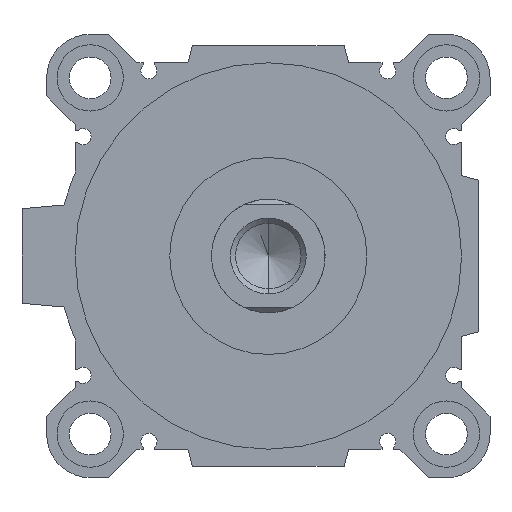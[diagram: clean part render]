
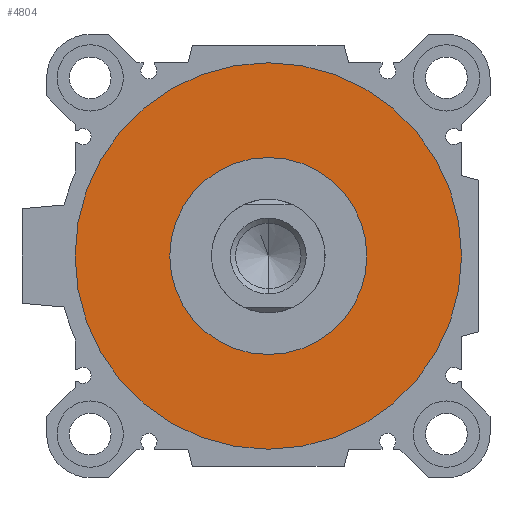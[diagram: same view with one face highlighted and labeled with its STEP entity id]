
A CAD part, left-side view. The second image highlights one B-rep face of the part: STEP entity #4804.
In plain terms, the highlighted planar face has unit normal (-1, 0, 0).
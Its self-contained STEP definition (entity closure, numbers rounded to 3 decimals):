
#263 = AXIS2_PLACEMENT_3D ( 'NONE', #4619, #3879, #3908 ) ;
#372 = DIRECTION ( 'NONE',  ( 0., 0., -1. ) ) ;
#512 = EDGE_LOOP ( 'NONE', ( #4328, #954 ) ) ;
#661 = CIRCLE ( 'NONE', #3333, 51. ) ;
#825 = CARTESIAN_POINT ( 'NONE',  ( 6.5, 0., 0. ) ) ;
#954 = ORIENTED_EDGE ( 'NONE', *, *, #2784, .F. ) ;
#1235 = PLANE ( 'NONE',  #1604 ) ;
#1427 = DIRECTION ( 'NONE',  ( 0., 0., -1. ) ) ;
#1449 = VERTEX_POINT ( 'NONE', #5079 ) ;
#1604 = AXIS2_PLACEMENT_3D ( 'NONE', #5025, #2904, #4606 ) ;
#1946 = CIRCLE ( 'NONE', #263, 26. ) ;
#2074 = EDGE_LOOP ( 'NONE', ( #4188, #3931 ) ) ;
#2089 = EDGE_CURVE ( 'NONE', #4534, #3792, #4820, .T. ) ;
#2559 = CIRCLE ( 'NONE', #2736, 51. ) ;
#2615 = CARTESIAN_POINT ( 'NONE',  ( 6.5, 0., 26. ) ) ;
#2736 = AXIS2_PLACEMENT_3D ( 'NONE', #825, #4689, #4138 ) ;
#2784 = EDGE_CURVE ( 'NONE', #5204, #1449, #661, .T. ) ;
#2873 = AXIS2_PLACEMENT_3D ( 'NONE', #4386, #3547, #1427 ) ;
#2904 = DIRECTION ( 'NONE',  ( 1., 0., 0. ) ) ;
#3024 = DIRECTION ( 'NONE',  ( 1., 0., 0. ) ) ;
#3324 = FACE_BOUND ( 'NONE', #2074, .T. ) ;
#3333 = AXIS2_PLACEMENT_3D ( 'NONE', #5141, #3024, #372 ) ;
#3479 = EDGE_CURVE ( 'NONE', #1449, #5204, #2559, .T. ) ;
#3547 = DIRECTION ( 'NONE',  ( 1., 0., 0. ) ) ;
#3792 = VERTEX_POINT ( 'NONE', #5263 ) ;
#3879 = DIRECTION ( 'NONE',  ( 1., 0., 0. ) ) ;
#3908 = DIRECTION ( 'NONE',  ( 0., 0., -1. ) ) ;
#3931 = ORIENTED_EDGE ( 'NONE', *, *, #4554, .T. ) ;
#4138 = DIRECTION ( 'NONE',  ( 0., 0., -1. ) ) ;
#4188 = ORIENTED_EDGE ( 'NONE', *, *, #2089, .T. ) ;
#4328 = ORIENTED_EDGE ( 'NONE', *, *, #3479, .F. ) ;
#4386 = CARTESIAN_POINT ( 'NONE',  ( 6.5, 0., 0. ) ) ;
#4534 = VERTEX_POINT ( 'NONE', #2615 ) ;
#4554 = EDGE_CURVE ( 'NONE', #3792, #4534, #1946, .T. ) ;
#4606 = DIRECTION ( 'NONE',  ( 0., 1., 0. ) ) ;
#4619 = CARTESIAN_POINT ( 'NONE',  ( 6.5, 0., 0. ) ) ;
#4689 = DIRECTION ( 'NONE',  ( 1., 0., 0. ) ) ;
#4804 = ADVANCED_FACE ( 'NONE', ( #5444, #3324 ), #1235, .F. ) ;
#4820 = CIRCLE ( 'NONE', #2873, 26. ) ;
#4901 = CARTESIAN_POINT ( 'NONE',  ( 6.5, 0., -51. ) ) ;
#5025 = CARTESIAN_POINT ( 'NONE',  ( 6.5, 0., 0. ) ) ;
#5079 = CARTESIAN_POINT ( 'NONE',  ( 6.5, 0., 51. ) ) ;
#5141 = CARTESIAN_POINT ( 'NONE',  ( 6.5, 0., 0. ) ) ;
#5204 = VERTEX_POINT ( 'NONE', #4901 ) ;
#5263 = CARTESIAN_POINT ( 'NONE',  ( 6.5, 0., -26. ) ) ;
#5444 = FACE_OUTER_BOUND ( 'NONE', #512, .T. ) ;
